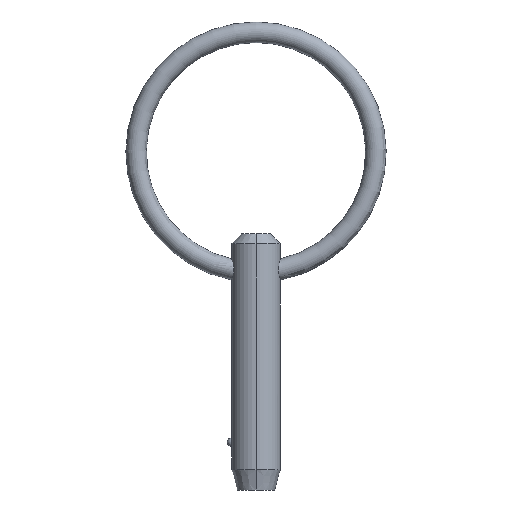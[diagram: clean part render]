
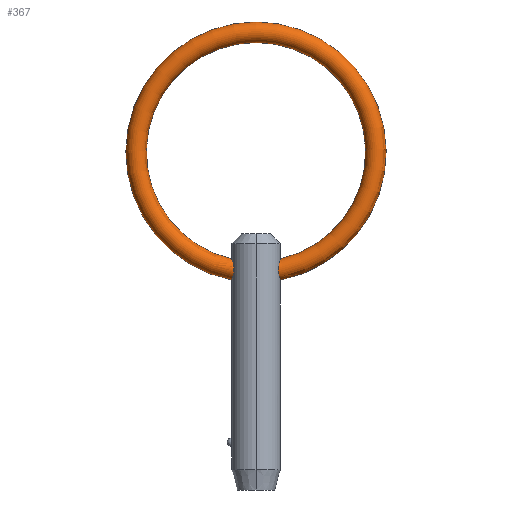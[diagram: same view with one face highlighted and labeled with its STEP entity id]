
A CAD part, left-side view. The second image highlights one B-rep face of the part: STEP entity #367.
In plain terms, the highlighted toroidal (fillet/blend) face has major radius 11.7 mm and minor radius 1 mm.
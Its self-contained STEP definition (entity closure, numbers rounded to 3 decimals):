
#1 = CARTESIAN_POINT ( 'NONE',  ( 0., 0., 27.9 ) ) ;
#9 = CARTESIAN_POINT ( 'NONE',  ( -0.811, -2.24, 15.806 ) ) ;
#13 = TOROIDAL_SURFACE ( 'NONE', #83, 11.7, 1. ) ;
#16 = CARTESIAN_POINT ( 'NONE',  ( -0.966, 2.176, 16.696 ) ) ;
#21 = CARTESIAN_POINT ( 'NONE',  ( 0., 0., 27.9 ) ) ;
#40 = CARTESIAN_POINT ( 'NONE',  ( -0.982, -2.169, 16.165 ) ) ;
#45 = CARTESIAN_POINT ( 'NONE',  ( -0.793, 2.246, 17.052 ) ) ;
#47 = EDGE_CURVE ( 'NONE', #64, #261, #439, .T. ) ;
#48 = CARTESIAN_POINT ( 'NONE',  ( -0.133, 2.38, 15.425 ) ) ;
#50 = CARTESIAN_POINT ( 'NONE',  ( -0.997, 2.161, 16.298 ) ) ;
#54 = VERTEX_POINT ( 'NONE', #457 ) ;
#64 = VERTEX_POINT ( 'NONE', #242 ) ;
#76 = CARTESIAN_POINT ( 'NONE',  ( 0., 0., 27.9 ) ) ;
#77 = DIRECTION ( 'NONE',  ( 0., 0., -1. ) ) ;
#83 = AXIS2_PLACEMENT_3D ( 'NONE', #1, #298, #151 ) ;
#84 = CARTESIAN_POINT ( 'NONE',  ( -0.134, -2.38, 17.468 ) ) ;
#86 = CARTESIAN_POINT ( 'NONE',  ( -0.507, 2.329, 17.325 ) ) ;
#87 = CIRCLE ( 'NONE', #417, 12.7 ) ;
#90 = CARTESIAN_POINT ( 'NONE',  ( -0.885, 2.21, 15.917 ) ) ;
#91 = CARTESIAN_POINT ( 'NONE',  ( -0.512, 2.328, 15.548 ) ) ;
#93 = DIRECTION ( 'NONE',  ( 1., 0., 0. ) ) ;
#99 = EDGE_CURVE ( 'NONE', #54, #354, #295, .T. ) ;
#120 = CARTESIAN_POINT ( 'NONE',  ( -0.626, -2.298, 15.622 ) ) ;
#121 = CARTESIAN_POINT ( 'NONE',  ( -0.991, -2.164, 16.701 ) ) ;
#125 = CARTESIAN_POINT ( 'NONE',  ( -0.267, 2.368, 15.451 ) ) ;
#126 = CARTESIAN_POINT ( 'NONE',  ( -0.626, 2.298, 15.622 ) ) ;
#130 = CARTESIAN_POINT ( 'NONE',  ( -0.613, -2.302, 17.246 ) ) ;
#133 = EDGE_CURVE ( 'NONE', #54, #261, #239, .T. ) ;
#140 = DIRECTION ( 'NONE',  ( 0., 0., -1. ) ) ;
#149 = ORIENTED_EDGE ( 'NONE', *, *, #99, .F. ) ;
#151 = DIRECTION ( 'NONE',  ( 0., 0., -1. ) ) ;
#158 = AXIS2_PLACEMENT_3D ( 'NONE', #21, #93, #140 ) ;
#163 = CARTESIAN_POINT ( 'NONE',  ( -0.957, 2.179, 16.102 ) ) ;
#165 = CARTESIAN_POINT ( 'NONE',  ( 0., 2.38, 15.425 ) ) ;
#198 = ORIENTED_EDGE ( 'NONE', *, *, #47, .F. ) ;
#202 = CARTESIAN_POINT ( 'NONE',  ( -0.514, -2.327, 15.549 ) ) ;
#208 = CARTESIAN_POINT ( 'NONE',  ( -0.88, -2.219, 16.96 ) ) ;
#239 = CIRCLE ( 'NONE', #158, 10.7 ) ;
#242 = CARTESIAN_POINT ( 'NONE',  ( 0., -2.38, 15.425 ) ) ;
#243 = CARTESIAN_POINT ( 'NONE',  ( -0.267, -2.368, 17.437 ) ) ;
#261 = VERTEX_POINT ( 'NONE', #326 ) ;
#266 = CARTESIAN_POINT ( 'NONE',  ( -0.133, -2.38, 15.425 ) ) ;
#270 = CARTESIAN_POINT ( 'NONE',  ( -0.885, -2.21, 15.917 ) ) ;
#273 = CARTESIAN_POINT ( 'NONE',  ( -1.001, 2.159, 16.364 ) ) ;
#277 = CARTESIAN_POINT ( 'NONE',  ( -0.133, 2.38, 17.468 ) ) ;
#281 = ORIENTED_EDGE ( 'NONE', *, *, #133, .T. ) ;
#295 = B_SPLINE_CURVE_WITH_KNOTS ( 'NONE', 3,
 ( #304, #277, #321, #86, #314, #45, #349, #16, #458, #273, #50, #462, #163, #90, #320, #126, #91, #125, #48, #165 ),
 .UNSPECIFIED., .F., .F.,
 ( 4, 2, 2, 2, 2, 2, 2, 2, 2, 4 ),
 ( 0.004, 0.004, 0.005, 0.005, 0.005, 0.006, 0.006, 0.006, 0.007, 0.007 ),
 .UNSPECIFIED. ) ;
#298 = DIRECTION ( 'NONE',  ( 1., 0., 0. ) ) ;
#304 = CARTESIAN_POINT ( 'NONE',  ( 0., 2.38, 17.468 ) ) ;
#311 = CARTESIAN_POINT ( 'NONE',  ( -1.004, -2.158, 16.299 ) ) ;
#314 = CARTESIAN_POINT ( 'NONE',  ( -0.614, 2.301, 17.245 ) ) ;
#320 = CARTESIAN_POINT ( 'NONE',  ( -0.811, 2.24, 15.805 ) ) ;
#321 = CARTESIAN_POINT ( 'NONE',  ( -0.267, 2.368, 17.437 ) ) ;
#326 = CARTESIAN_POINT ( 'NONE',  ( 0., -2.38, 17.468 ) ) ;
#338 = ORIENTED_EDGE ( 'NONE', *, *, #425, .F. ) ;
#349 = CARTESIAN_POINT ( 'NONE',  ( -0.864, 2.218, 16.941 ) ) ;
#353 = FACE_OUTER_BOUND ( 'NONE', #363, .T. ) ;
#354 = VERTEX_POINT ( 'NONE', #402 ) ;
#363 = EDGE_LOOP ( 'NONE', ( #338, #149, #281, #198 ) ) ;
#367 = ADVANCED_FACE ( 'NONE', ( #353 ), #13, .T. ) ;
#377 = CARTESIAN_POINT ( 'NONE',  ( -0.268, -2.368, 15.451 ) ) ;
#384 = CARTESIAN_POINT ( 'NONE',  ( 0., -2.38, 17.468 ) ) ;
#402 = CARTESIAN_POINT ( 'NONE',  ( 0., 2.38, 15.425 ) ) ;
#412 = DIRECTION ( 'NONE',  ( 1., 0., 0. ) ) ;
#413 = CARTESIAN_POINT ( 'NONE',  ( 0., -2.38, 15.425 ) ) ;
#417 = AXIS2_PLACEMENT_3D ( 'NONE', #76, #412, #77 ) ;
#421 = CARTESIAN_POINT ( 'NONE',  ( -0.505, -2.329, 17.326 ) ) ;
#425 = EDGE_CURVE ( 'NONE', #354, #64, #87, .T. ) ;
#439 = B_SPLINE_CURVE_WITH_KNOTS ( 'NONE', 3,
 ( #413, #266, #377, #202, #120, #9, #270, #40, #311, #121, #208, #130, #421, #243, #84, #384 ),
 .UNSPECIFIED., .F., .F.,
 ( 4, 2, 2, 2, 2, 2, 2, 4 ),
 ( 0.006, 0.006, 0.007, 0.007, 0.007, 0.008, 0.009, 0.009 ),
 .UNSPECIFIED. ) ;
#457 = CARTESIAN_POINT ( 'NONE',  ( 0., 2.38, 17.468 ) ) ;
#458 = CARTESIAN_POINT ( 'NONE',  ( -0.996, 2.162, 16.565 ) ) ;
#462 = CARTESIAN_POINT ( 'NONE',  ( -0.975, 2.171, 16.167 ) ) ;
